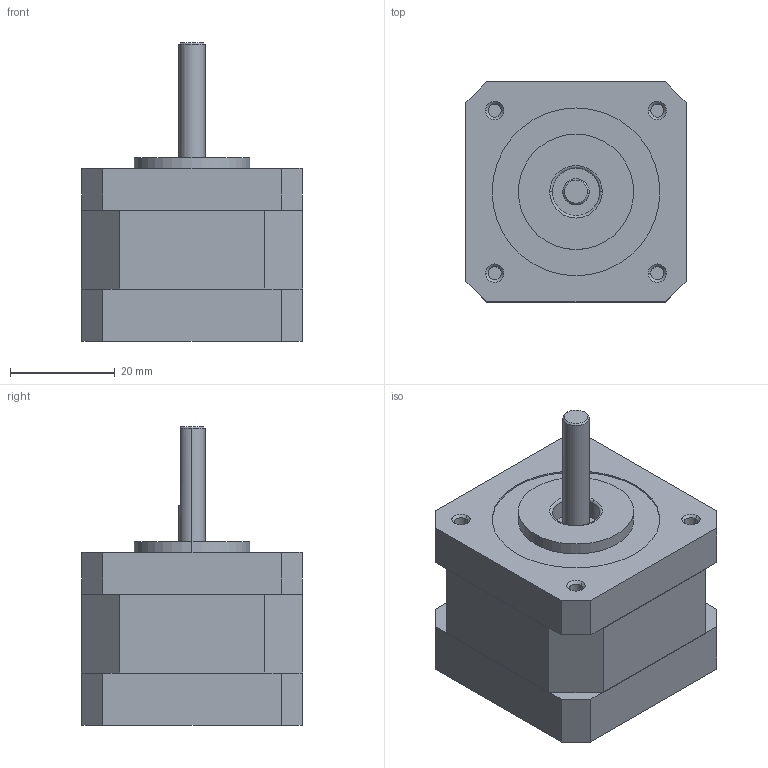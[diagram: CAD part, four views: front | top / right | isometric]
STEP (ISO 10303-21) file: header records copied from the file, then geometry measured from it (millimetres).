
FILE_DESCRIPTION (( 'STEP AP203' ), '1' );
FILE_NAME ('42CM02.STEP', '2017-10-12T06:26:04', ( 'Microsoft' ), ( 'China' ), 'SwSTEP 2.0', 'SolidWorks 2011', '' );
FILE_SCHEMA (( 'CONFIG_CONTROL_DESIGN' ));
Length unit declared in the file: millimetre
Products named in the file (1): 42CM02
Bounding box: 42.2 x 42.2 x 57 mm (x, y, z)
Volume: 56828.7 mm3; surface area: 10026.5 mm2
Topology: 1 solids, 1 shells, 207 faces, 516 edges, 329 vertices
Faces by surface type: plane 126, cylinder 56, cone 13, torus 12
Entity records: 6280 total; most frequent: CARTESIAN_POINT 1191, DIRECTION 1061, ORIENTED_EDGE 1032, EDGE_CURVE 516, AXIS2_PLACEMENT_3D 371, VERTEX_POINT 329, VECTOR 319, LINE 319
